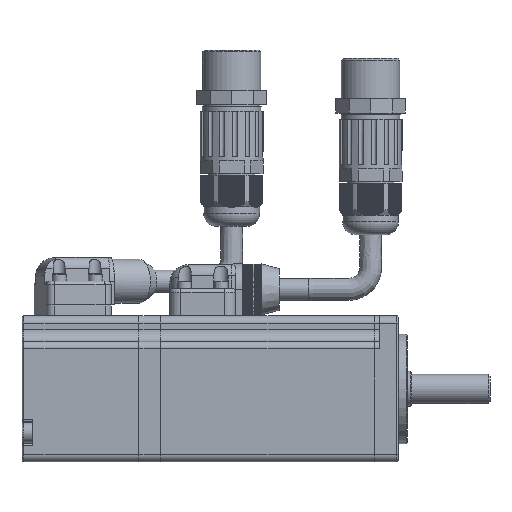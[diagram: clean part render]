
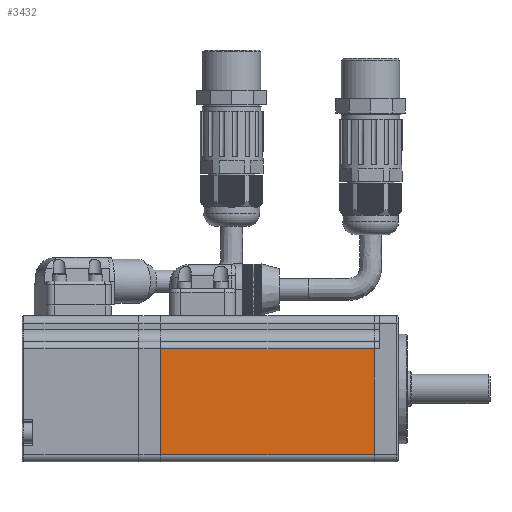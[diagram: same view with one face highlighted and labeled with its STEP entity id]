
A CAD part, left-side view. The second image highlights one B-rep face of the part: STEP entity #3432.
In plain terms, the highlighted planar face has unit normal (-1, 0, 0).
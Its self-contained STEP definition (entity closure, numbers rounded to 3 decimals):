
#3432=ADVANCED_FACE('',(#7239),#5398,.T.);
#5398=PLANE('',#43011);
#7239=FACE_OUTER_BOUND('',#9515,.T.);
#9515=EDGE_LOOP('',(#22038,#22039,#22040,#22041));
#12535=LINE('',#60382,#15926);
#12536=LINE('',#60385,#15927);
#12537=LINE('',#60387,#15928);
#12538=LINE('',#60389,#15929);
#15926=VECTOR('',#49315,1.);
#15927=VECTOR('',#49316,1.);
#15928=VECTOR('',#49317,1.);
#15929=VECTOR('',#49318,1.);
#22038=ORIENTED_EDGE('',*,*,#36041,.F.);
#22039=ORIENTED_EDGE('',*,*,#36042,.F.);
#22040=ORIENTED_EDGE('',*,*,#36043,.T.);
#22041=ORIENTED_EDGE('',*,*,#36044,.T.);
#31459=VERTEX_POINT('',#60383);
#31460=VERTEX_POINT('',#60384);
#31461=VERTEX_POINT('',#60386);
#31462=VERTEX_POINT('',#60388);
#36041=EDGE_CURVE('',#31459,#31460,#12535,.T.);
#36042=EDGE_CURVE('',#31461,#31459,#12536,.T.);
#36043=EDGE_CURVE('',#31461,#31462,#12537,.T.);
#36044=EDGE_CURVE('',#31462,#31460,#12538,.T.);
#43011=AXIS2_PLACEMENT_3D('',#60390,#49319,#49320);
#49315=DIRECTION('',(0.,0.,1.));
#49316=DIRECTION('',(0.,1.,0.));
#49317=DIRECTION('',(0.,0.,1.));
#49318=DIRECTION('',(0.,1.,0.));
#49319=DIRECTION('',(-1.,0.,0.));
#49320=DIRECTION('',(0.,-1.,0.));
#60382=CARTESIAN_POINT('',(148.12,170.4,-1.486));
#60383=CARTESIAN_POINT('',(148.12,170.4,-35.75));
#60384=CARTESIAN_POINT('',(148.12,170.4,-6.75));
#60385=CARTESIAN_POINT('',(148.12,111.9,-35.75));
#60386=CARTESIAN_POINT('',(148.12,111.9,-35.75));
#60387=CARTESIAN_POINT('',(148.12,111.9,-35.75));
#60388=CARTESIAN_POINT('',(148.12,111.9,-6.75));
#60389=CARTESIAN_POINT('',(148.12,111.9,-6.75));
#60390=CARTESIAN_POINT('',(148.12,111.9,-35.75));
